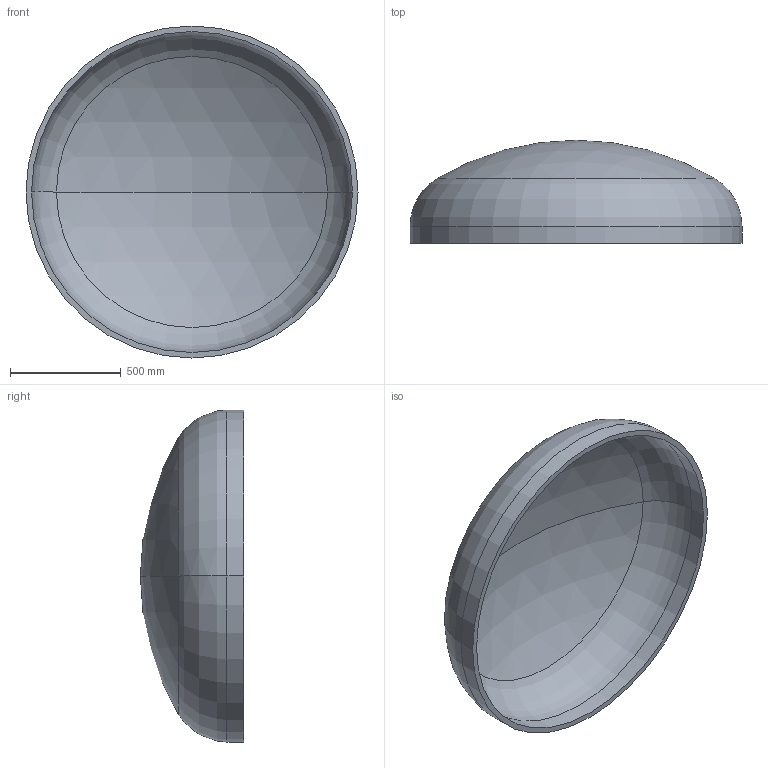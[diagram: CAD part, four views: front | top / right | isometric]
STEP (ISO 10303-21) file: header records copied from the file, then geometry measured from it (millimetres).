
FILE_DESCRIPTION (( 'STEP AP203' ), '1' );
FILE_NAME ('DIN 28013 Korbbogenform_-_Boden DIN 28013 - 1500 x 75 - I - s=25.step', '2016-07-01T10:40:26', ( '' ), ( '' ), 'SwSTEP 2.0', 'SolidWorks 2013', '' );
FILE_SCHEMA (( 'CONFIG_CONTROL_DESIGN' ));
Length unit declared in the file: millimetre
Products named in the file (1): DIN 28013 Korbbogenform_-_Boden DIN 28013 - 1500 x 75 - I - s=25
Bounding box: 1500 x 465.81 x 1500 mm (x, y, z)
Volume: 68493233.2 mm3; surface area: 5596612 mm2
Topology: 1 solids, 1 shells, 13 faces, 24 edges, 14 vertices
Faces by surface type: torus 4, cylinder 4, sphere 4, plane 1
Entity records: 407 total; most frequent: DIRECTION 72, CARTESIAN_POINT 52, ORIENTED_EDGE 48, AXIS2_PLACEMENT_3D 34, EDGE_CURVE 24, CIRCLE 20, EDGE_LOOP 14, VERTEX_POINT 14
